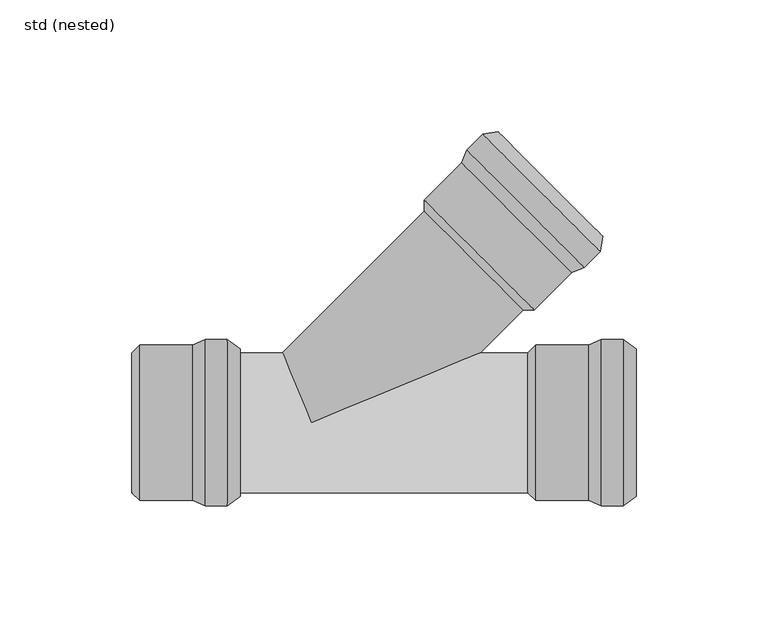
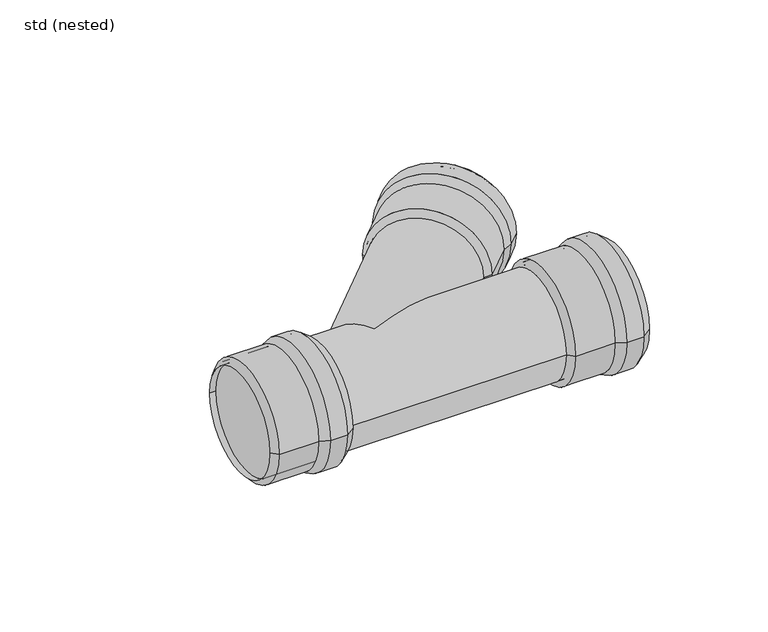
"""IFC4 building model written with IfcOpenShell, lengths in millimetres: pipe fitting geometry, ZZZ_do not use_PIF_ST_UN_GM-X single branch_ACO : std (nested)."""

from ifc_helpers import new_model, si_unit, frame, origin, place, context, project, spatial, polyline, circle_curve, ellipse_curve, source, transform, mapped, element, save
from ifc_brep_helpers import plane_surface, cylinder_surface, revolved_surface, advanced_brep


def std_nested_80a40978(model_context):
    return source(origin(), model_context, "Body", "AdvancedBrep", [
        advanced_brep(
        [(-40.2, 31.5, 0.0), (-40.2, -31.5, 0.0), (-31.8, -31.5, 0.0), (-31.8, 31.5, 0.0), (-45.0, 29.5, 0.0), (-45.0, -29.5, 0.0), (-27.0, -28.0, 0.0), (-27.0, 28.0, 0.0), (-65.0, 29.5, 0.0), (-65.0, -29.5, 0.0), (-68.0, 26.5, 0.0), (-68.0, -26.5, 0.0), (-65.0, 26.5, 0.0), (-65.0, -26.5, 0.0), (-44.7, 28.0, 0.0), (-44.7, -28.0, 0.0), (-65.0, -28.0, 0.0), (-65.0, 28.0, 0.0), (-39.9, 30.0, 0.0), (-39.9, -30.0, 0.0), (-32.2888023, 30.0, 0.0), (-32.2888023, -30.0, 0.0), (-27.8837582, 26.7879887, 0.0), (-27.8837582, -26.7879887, 0.0)],
        [
            (0, 1, circle_curve(frame((-40.2, 0.0, 0.0), z_axis=(1.0, 0.0, 0.0), x_axis=(0.0, -1.0, 0.0)), 31.5)),
            (1, 2),
            (2, 3, circle_curve(frame((-31.8, 0.0, 0.0), z_axis=(-1.0, 0.0, 0.0), x_axis=(0.0, -1.0, 0.0)), 31.5)),
            (3, 0),
            (1, 0, circle_curve(frame((-40.2, 0.0, 0.0), z_axis=(1.0, 0.0, 0.0), x_axis=(0.0, -1.0, 0.0)), 31.5)),
            (3, 2, circle_curve(frame((-31.8, 0.0, 0.0), z_axis=(-1.0, 0.0, 0.0), x_axis=(0.0, -1.0, 0.0)), 31.5)),
            (4, 5, circle_curve(frame((-45.0, 0.0, 0.0), z_axis=(1.0, 0.0, 0.0), x_axis=(0.0, -1.0, 0.0)), 29.5)),
            (5, 1),
            (0, 4),
            (5, 4, circle_curve(frame((-45.0, 0.0, 0.0), z_axis=(1.0, 0.0, 0.0), x_axis=(0.0, -1.0, 0.0)), 29.5)),
            (2, 6),
            (6, 7, circle_curve(frame((-27.0, 0.0, 0.0), z_axis=(-1.0, 0.0, 0.0), x_axis=(0.0, -1.0, 0.0)), 28.0)),
            (7, 3),
            (7, 6, circle_curve(frame((-27.0, 0.0, 0.0), z_axis=(-1.0, 0.0, 0.0), x_axis=(0.0, -1.0, 0.0)), 28.0)),
            (8, 9, circle_curve(frame((-65.0, 0.0, 0.0), z_axis=(1.0, 0.0, 0.0), x_axis=(0.0, -1.0, 0.0)), 29.5)),
            (9, 5),
            (4, 8),
            (9, 8, circle_curve(frame((-65.0, 0.0, 0.0), z_axis=(1.0, 0.0, 0.0), x_axis=(0.0, -1.0, 0.0)), 29.5)),
            (10, 11, circle_curve(frame((-68.0, 0.0, 0.0), z_axis=(1.0, 0.0, 0.0), x_axis=(0.0, -1.0, 0.0)), 26.5)),
            (11, 9),
            (8, 10),
            (11, 10, circle_curve(frame((-68.0, 0.0, 0.0), z_axis=(1.0, 0.0, 0.0), x_axis=(0.0, -1.0, 0.0)), 26.5)),
            (12, 13, circle_curve(frame((-65.0, 0.0, 0.0), z_axis=(1.0, 0.0, 0.0), x_axis=(0.0, -1.0, 0.0)), 26.5)),
            (13, 11),
            (10, 12),
            (13, 12, circle_curve(frame((-65.0, 0.0, 0.0), z_axis=(1.0, 0.0, 0.0), x_axis=(0.0, -1.0, 0.0)), 26.5)),
            (14, 15, circle_curve(frame((-44.7, 0.0, 0.0), z_axis=(1.0, 0.0, 0.0), x_axis=(0.0, -1.0, 0.0)), 28.0)),
            (15, 16),
            (16, 17, circle_curve(frame((-65.0, 0.0, 0.0), z_axis=(-1.0, 0.0, 0.0), x_axis=(0.0, -1.0, 0.0)), 28.0)),
            (17, 14),
            (15, 14, circle_curve(frame((-44.7, 0.0, 0.0), z_axis=(1.0, 0.0, 0.0), x_axis=(0.0, -1.0, 0.0)), 28.0)),
            (17, 16, circle_curve(frame((-65.0, 0.0, 0.0), z_axis=(-1.0, 0.0, 0.0), x_axis=(0.0, -1.0, 0.0)), 28.0)),
            (18, 19, circle_curve(frame((-39.9, 0.0, 0.0), z_axis=(1.0, 0.0, 0.0), x_axis=(0.0, -1.0, 0.0)), 30.0)),
            (19, 15),
            (14, 18),
            (19, 18, circle_curve(frame((-39.9, 0.0, 0.0), z_axis=(1.0, 0.0, 0.0), x_axis=(0.0, -1.0, 0.0)), 30.0)),
            (20, 21, circle_curve(frame((-32.2888023, 0.0, 0.0), z_axis=(1.0, 0.0, 0.0), x_axis=(0.0, -1.0, 0.0)), 30.0)),
            (21, 19),
            (18, 20),
            (21, 20, circle_curve(frame((-32.2888023, 0.0, 0.0), z_axis=(1.0, 0.0, 0.0), x_axis=(0.0, -1.0, 0.0)), 30.0)),
            (22, 23, circle_curve(frame((-27.8837582, 0.0, 0.0), z_axis=(1.0, 0.0, 0.0), x_axis=(0.0, -1.0, 0.0)), 26.7879887)),
            (23, 21),
            (20, 22),
            (23, 22, circle_curve(frame((-27.8837582, 0.0, 0.0), z_axis=(1.0, 0.0, 0.0), x_axis=(0.0, -1.0, 0.0)), 26.7879887)),
            (6, 23),
            (22, 7),
            (16, 13),
            (12, 17),
        ],
        [
            cylinder_surface(frame((-30.3555883, 0.0, 0.0), z_axis=(-1.0, 0.0, 0.0), x_axis=(0.0, -1.0, 0.0)), 31.5),
            revolved_surface(polyline([(-40.2, -31.5, 0.0), (-45.0, -29.5, 0.0)]), (-30.3555883, 0.0, 0.0), (-1.0, 0.0, 0.0)),
            revolved_surface(polyline([(-27.0, -28.0, 0.0), (-31.8, -31.5, 0.0)]), (-30.3555883, 0.0, 0.0), (-1.0, 0.0, 0.0)),
            cylinder_surface(frame((-30.3555883, 0.0, 0.0), z_axis=(-1.0, 0.0, 0.0), x_axis=(0.0, -1.0, 0.0)), 29.5),
            revolved_surface(polyline([(-65.0, -29.5, 0.0), (-68.0, -26.5, 0.0)]), (-30.3555883, 0.0, 0.0), (-1.0, 0.0, 0.0)),
            revolved_surface(polyline([(-68.0, -26.5, 0.0), (-65.0, -26.5, 0.0)]), (-30.3555883, 0.0, 0.0), (-1.0, 0.0, 0.0)),
            revolved_surface(polyline([(-65.0, -28.0, 0.0), (-44.7, -28.0, 0.0)]), (-30.3555883, 0.0, 0.0), (-1.0, 0.0, 0.0)),
            revolved_surface(polyline([(-44.7, -28.0, 0.0), (-39.9, -30.0, 0.0)]), (-30.3555883, 0.0, 0.0), (-1.0, 0.0, 0.0)),
            revolved_surface(polyline([(-39.9, -30.0, 0.0), (-32.2888023, -30.0, 0.0)]), (-30.3555883, 0.0, 0.0), (-1.0, 0.0, 0.0)),
            revolved_surface(polyline([(-32.2888023, -30.0, 0.0), (-27.8837582, -26.7879887, 0.0)]), (-30.3555883, 0.0, 0.0), (-1.0, 0.0, 0.0)),
            revolved_surface(polyline([(-27.8837582, -26.7879887, 0.0), (-27.0, -28.0, 0.0)]), (-30.3555883, 0.0, 0.0), (-1.0, 0.0, 0.0)),
            plane_surface(frame((-65.0, 0.0, 0.0), z_axis=(1.0, 0.0, 0.0), x_axis=(0.0, -1.0, 0.0))),
        ],
        [
            (0, [[1, 2, 3, 4]]),
            (0, [[5, -4, 6, -2]]),
            (1, [[7, 8, -1, 9]]),
            (1, [[10, -9, -5, -8]]),
            (2, [[-3, 11, 12, 13]]),
            (2, [[-6, -13, 14, -11]]),
            (3, [[15, 16, -7, 17]]),
            (3, [[18, -17, -10, -16]]),
            (4, [[19, 20, -15, 21]]),
            (4, [[22, -21, -18, -20]]),
            (5, [[23, 24, -19, 25]]),
            (5, [[26, -25, -22, -24]]),
            (6, [[27, 28, 29, 30]]),
            (6, [[31, -30, 32, -28]]),
            (7, [[33, 34, -27, 35]]),
            (7, [[36, -35, -31, -34]]),
            (8, [[37, 38, -33, 39]]),
            (8, [[40, -39, -36, -38]]),
            (9, [[41, 42, -37, 43]]),
            (9, [[44, -43, -40, -42]]),
            (10, [[-12, 45, -41, 46]]),
            (10, [[-14, -46, -44, -45]]),
            (11, [[-29, 47, -23, 48]]),
            (11, [[-32, -48, -26, -47]]),
        ],
    ),
        advanced_brep(
        [(109.8, -31.5, 0.0), (109.8, 31.5, 0.0), (118.2, 31.5, 0.0), (118.2, -31.5, 0.0), (105.0, -29.5, 0.0), (105.0, 29.5, 0.0), (123.0, 28.0, 0.0), (123.0, -28.0, 0.0), (85.0, -29.5, 0.0), (85.0, 29.5, 0.0), (82.0, -26.5, 0.0), (82.0, 26.5, 0.0), (85.0, -26.5, 0.0), (85.0, 26.5, 0.0), (105.3, -28.0, 0.0), (105.3, 28.0, 0.0), (85.0, 28.0, 0.0), (85.0, -28.0, 0.0), (110.1, -30.0, 0.0), (110.1, 30.0, 0.0), (117.7111977, -30.0, 0.0), (117.7111977, 30.0, 0.0), (122.1162418, -26.7879887, 0.0), (122.1162418, 26.7879887, 0.0)],
        [
            (0, 1, circle_curve(frame((109.8, 0.0, 0.0), z_axis=(1.0, 0.0, 0.0), x_axis=(0.0, 1.0, 0.0)), 31.5)),
            (1, 2),
            (2, 3, circle_curve(frame((118.2, 0.0, 0.0), z_axis=(-1.0, 0.0, 0.0), x_axis=(0.0, 1.0, 0.0)), 31.5)),
            (3, 0),
            (1, 0, circle_curve(frame((109.8, 0.0, 0.0), z_axis=(1.0, 0.0, 0.0), x_axis=(0.0, 1.0, 0.0)), 31.5)),
            (3, 2, circle_curve(frame((118.2, 0.0, 0.0), z_axis=(-1.0, 0.0, 0.0), x_axis=(0.0, 1.0, 0.0)), 31.5)),
            (4, 5, circle_curve(frame((105.0, 0.0, 0.0), z_axis=(1.0, 0.0, 0.0), x_axis=(0.0, 1.0, 0.0)), 29.5)),
            (5, 1),
            (0, 4),
            (5, 4, circle_curve(frame((105.0, 0.0, 0.0), z_axis=(1.0, 0.0, 0.0), x_axis=(0.0, 1.0, 0.0)), 29.5)),
            (2, 6),
            (6, 7, circle_curve(frame((123.0, 0.0, 0.0), z_axis=(-1.0, 0.0, 0.0), x_axis=(0.0, 1.0, 0.0)), 28.0)),
            (7, 3),
            (7, 6, circle_curve(frame((123.0, 0.0, 0.0), z_axis=(-1.0, 0.0, 0.0), x_axis=(0.0, 1.0, 0.0)), 28.0)),
            (8, 9, circle_curve(frame((85.0, 0.0, 0.0), z_axis=(1.0, 0.0, 0.0), x_axis=(0.0, 1.0, 0.0)), 29.5)),
            (9, 5),
            (4, 8),
            (9, 8, circle_curve(frame((85.0, 0.0, 0.0), z_axis=(1.0, 0.0, 0.0), x_axis=(0.0, 1.0, 0.0)), 29.5)),
            (10, 11, circle_curve(frame((82.0, 0.0, 0.0), z_axis=(1.0, 0.0, 0.0), x_axis=(0.0, 1.0, 0.0)), 26.5)),
            (11, 9),
            (8, 10),
            (11, 10, circle_curve(frame((82.0, 0.0, 0.0), z_axis=(1.0, 0.0, 0.0), x_axis=(0.0, 1.0, 0.0)), 26.5)),
            (12, 13, circle_curve(frame((85.0, 0.0, 0.0), z_axis=(1.0, 0.0, 0.0), x_axis=(0.0, 1.0, 0.0)), 26.5)),
            (13, 11),
            (10, 12),
            (13, 12, circle_curve(frame((85.0, 0.0, 0.0), z_axis=(1.0, 0.0, 0.0), x_axis=(0.0, 1.0, 0.0)), 26.5)),
            (14, 15, circle_curve(frame((105.3, 0.0, 0.0), z_axis=(1.0, 0.0, 0.0), x_axis=(0.0, 1.0, 0.0)), 28.0)),
            (15, 16),
            (16, 17, circle_curve(frame((85.0, 0.0, 0.0), z_axis=(-1.0, 0.0, 0.0), x_axis=(0.0, 1.0, 0.0)), 28.0)),
            (17, 14),
            (15, 14, circle_curve(frame((105.3, 0.0, 0.0), z_axis=(1.0, 0.0, 0.0), x_axis=(0.0, 1.0, 0.0)), 28.0)),
            (17, 16, circle_curve(frame((85.0, 0.0, 0.0), z_axis=(-1.0, 0.0, 0.0), x_axis=(0.0, 1.0, 0.0)), 28.0)),
            (18, 19, circle_curve(frame((110.1, 0.0, 0.0), z_axis=(1.0, 0.0, 0.0), x_axis=(0.0, 1.0, 0.0)), 30.0)),
            (19, 15),
            (14, 18),
            (19, 18, circle_curve(frame((110.1, 0.0, 0.0), z_axis=(1.0, 0.0, 0.0), x_axis=(0.0, 1.0, 0.0)), 30.0)),
            (20, 21, circle_curve(frame((117.7111977, 0.0, 0.0), z_axis=(1.0, 0.0, 0.0), x_axis=(0.0, 1.0, 0.0)), 30.0)),
            (21, 19),
            (18, 20),
            (21, 20, circle_curve(frame((117.7111977, 0.0, 0.0), z_axis=(1.0, 0.0, 0.0), x_axis=(0.0, 1.0, 0.0)), 30.0)),
            (22, 23, circle_curve(frame((122.1162418, 0.0, 0.0), z_axis=(1.0, 0.0, 0.0), x_axis=(0.0, 1.0, 0.0)), 26.7879887)),
            (23, 21),
            (20, 22),
            (23, 22, circle_curve(frame((122.1162418, 0.0, 0.0), z_axis=(1.0, 0.0, 0.0), x_axis=(0.0, 1.0, 0.0)), 26.7879887)),
            (6, 23),
            (22, 7),
            (16, 13),
            (12, 17),
        ],
        [
            cylinder_surface(frame((119.6444117, 0.0, 0.0), z_axis=(-1.0, 0.0, 0.0), x_axis=(0.0, 1.0, 0.0)), 31.5),
            revolved_surface(polyline([(109.8, 31.5, 0.0), (105.0, 29.5, 0.0)]), (119.6444117, 0.0, 0.0), (-1.0, 0.0, 0.0)),
            revolved_surface(polyline([(123.0, 28.0, 0.0), (118.2, 31.5, 0.0)]), (119.6444117, 0.0, 0.0), (-1.0, 0.0, 0.0)),
            cylinder_surface(frame((119.6444117, 0.0, 0.0), z_axis=(-1.0, 0.0, 0.0), x_axis=(0.0, 1.0, 0.0)), 29.5),
            revolved_surface(polyline([(85.0, 29.5, 0.0), (82.0, 26.5, 0.0)]), (119.6444117, 0.0, 0.0), (-1.0, 0.0, 0.0)),
            revolved_surface(polyline([(82.0, 26.5, 0.0), (85.0, 26.5, 0.0)]), (119.6444117, 0.0, 0.0), (-1.0, 0.0, 0.0)),
            revolved_surface(polyline([(85.0, 28.0, 0.0), (105.3, 28.0, 0.0)]), (119.6444117, 0.0, 0.0), (-1.0, 0.0, 0.0)),
            revolved_surface(polyline([(105.3, 28.0, 0.0), (110.1, 30.0, 0.0)]), (119.6444117, 0.0, 0.0), (-1.0, 0.0, 0.0)),
            revolved_surface(polyline([(110.1, 30.0, 0.0), (117.7111977, 30.0, 0.0)]), (119.6444117, 0.0, 0.0), (-1.0, 0.0, 0.0)),
            revolved_surface(polyline([(117.7111977, 30.0, 0.0), (122.1162418, 26.7879887, 0.0)]), (119.6444117, 0.0, 0.0), (-1.0, 0.0, 0.0)),
            revolved_surface(polyline([(122.1162418, 26.7879887, 0.0), (123.0, 28.0, 0.0)]), (119.6444117, 0.0, 0.0), (-1.0, 0.0, 0.0)),
            plane_surface(frame((85.0, 0.0, 0.0), z_axis=(1.0, 0.0, 0.0), x_axis=(0.0, 1.0, 0.0))),
        ],
        [
            (0, [[1, 2, 3, 4]]),
            (0, [[5, -4, 6, -2]]),
            (1, [[7, 8, -1, 9]]),
            (1, [[10, -9, -5, -8]]),
            (2, [[-3, 11, 12, 13]]),
            (2, [[-6, -13, 14, -11]]),
            (3, [[15, 16, -7, 17]]),
            (3, [[18, -17, -10, -16]]),
            (4, [[19, 20, -15, 21]]),
            (4, [[22, -21, -18, -20]]),
            (5, [[23, 24, -19, 25]]),
            (5, [[26, -25, -22, -24]]),
            (6, [[27, 28, 29, 30]]),
            (6, [[31, -30, 32, -28]]),
            (7, [[33, 34, -27, 35]]),
            (7, [[36, -35, -31, -34]]),
            (8, [[37, 38, -33, 39]]),
            (8, [[40, -39, -36, -38]]),
            (9, [[41, 42, -37, 43]]),
            (9, [[44, -43, -40, -42]]),
            (10, [[-12, 45, -41, 46]]),
            (10, [[-14, -46, -44, -45]]),
            (11, [[-29, 47, -23, 48]]),
            (11, [[-32, -48, -26, -47]]),
        ],
    ),
        advanced_brep(
        [(103.4552102, 58.892355, 0.0), (58.9116342, 103.4442331, 0.0), (64.8518846, 109.3833765, 0.0), (109.3954606, 64.8314985, 0.0), (98.6466996, 56.9129041, 0.0), (56.9312872, 98.6360915, 0.0), (70.7209565, 110.3020685, 0.0), (110.3152463, 70.7003991, 0.0), (84.5032463, 42.7720863, 0.0), (42.7878338, 84.4952737, 0.0), (80.2606056, 42.7724816, 0.0), (42.7874385, 80.252633, 0.0), (82.3821236, 44.8936043, 0.0), (44.9089565, 82.3737557, 0.0), (97.7982901, 58.1857754, 0.0), (58.2040003, 97.7874447, 0.0), (43.8483952, 83.4345147, 0.0), (83.4426849, 43.8328453, 0.0), (102.6068007, 60.1652263, 0.0), (60.1843473, 102.5955863, 0.0), (107.9892317, 65.5466543, 0.0), (65.5667783, 107.9770143, 0.0), (108.8333351, 70.9326471, 0.0), (70.9529284, 108.820114, 0.0)],
        [
            (0, 1, circle_curve(frame((81.1834222, 81.168294, 0.0), z_axis=(0.7071726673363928, 0.7070408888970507, 0.0), x_axis=(-0.7070408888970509, 0.707172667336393, 0.0)), 31.5)),
            (1, 2),
            (2, 3, circle_curve(frame((87.1236726, 87.1074375, 0.0), z_axis=(-0.7071726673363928, -0.7070408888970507, 0.0), x_axis=(-0.7070408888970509, 0.707172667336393, 0.0)), 31.5)),
            (3, 0),
            (1, 0, circle_curve(frame((81.1834222, 81.168294, 0.0), z_axis=(0.7071726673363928, 0.7070408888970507, 0.0), x_axis=(-0.7070408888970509, 0.707172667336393, 0.0)), 31.5)),
            (3, 2, circle_curve(frame((87.1236726, 87.1074375, 0.0), z_axis=(-0.7071726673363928, -0.7070408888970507, 0.0), x_axis=(-0.7070408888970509, 0.707172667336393, 0.0)), 31.5)),
            (4, 5, circle_curve(frame((77.7889934, 77.7744978, 0.0), z_axis=(0.7071726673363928, 0.7070408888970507, 0.0), x_axis=(-0.7070408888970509, 0.707172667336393, 0.0)), 29.5)),
            (5, 1),
            (0, 4),
            (5, 4, circle_curve(frame((77.7889934, 77.7744978, 0.0), z_axis=(0.7071726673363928, 0.7070408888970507, 0.0), x_axis=(-0.7070408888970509, 0.707172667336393, 0.0)), 29.5)),
            (2, 6),
            (6, 7, circle_curve(frame((90.5181014, 90.5012338, 0.0), z_axis=(-0.7071726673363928, -0.7070408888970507, 0.0), x_axis=(-0.7070408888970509, 0.707172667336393, 0.0)), 28.0)),
            (7, 3),
            (7, 6, circle_curve(frame((90.5181014, 90.5012338, 0.0), z_axis=(-0.7071726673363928, -0.7070408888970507, 0.0), x_axis=(-0.7070408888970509, 0.707172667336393, 0.0)), 28.0)),
            (8, 9, circle_curve(frame((63.6455401, 63.63368, 0.0), z_axis=(0.7071726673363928, 0.7070408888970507, 0.0), x_axis=(-0.7070408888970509, 0.707172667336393, 0.0)), 29.5)),
            (9, 5),
            (4, 8),
            (9, 8, circle_curve(frame((63.6455401, 63.63368, 0.0), z_axis=(0.7071726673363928, 0.7070408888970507, 0.0), x_axis=(-0.7070408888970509, 0.707172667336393, 0.0)), 29.5)),
            (10, 11, circle_curve(frame((61.5240221, 61.5125573, 0.0), z_axis=(0.7071726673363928, 0.7070408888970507, 0.0), x_axis=(-0.7070408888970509, 0.707172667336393, 0.0)), 26.5)),
            (11, 9),
            (8, 10),
            (11, 10, circle_curve(frame((61.5240221, 61.5125573, 0.0), z_axis=(0.7071726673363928, 0.7070408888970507, 0.0), x_axis=(-0.7070408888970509, 0.707172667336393, 0.0)), 26.5)),
            (12, 13, circle_curve(frame((63.6455401, 63.63368, 0.0), z_axis=(0.7071726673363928, 0.7070408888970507, 0.0), x_axis=(-0.7070408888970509, 0.707172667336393, 0.0)), 26.5)),
            (13, 11),
            (10, 12),
            (13, 12, circle_curve(frame((63.6455401, 63.63368, 0.0), z_axis=(0.7071726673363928, 0.7070408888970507, 0.0), x_axis=(-0.7070408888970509, 0.707172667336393, 0.0)), 26.5)),
            (14, 15, circle_curve(frame((78.0011452, 77.98661, 0.0), z_axis=(0.7071726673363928, 0.7070408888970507, 0.0), x_axis=(-0.7070408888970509, 0.707172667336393, 0.0)), 28.0)),
            (15, 16),
            (16, 17, circle_curve(frame((63.6455401, 63.63368, 0.0), z_axis=(-0.7071726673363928, -0.7070408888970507, 0.0), x_axis=(-0.7070408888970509, 0.707172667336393, 0.0)), 28.0)),
            (17, 14),
            (15, 14, circle_curve(frame((78.0011452, 77.98661, 0.0), z_axis=(0.7071726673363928, 0.7070408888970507, 0.0), x_axis=(-0.7070408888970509, 0.707172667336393, 0.0)), 28.0)),
            (17, 16, circle_curve(frame((63.6455401, 63.63368, 0.0), z_axis=(-0.7071726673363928, -0.7070408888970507, 0.0), x_axis=(-0.7070408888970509, 0.707172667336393, 0.0)), 28.0)),
            (18, 19, circle_curve(frame((81.395574, 81.3804063, 0.0), z_axis=(0.7071726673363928, 0.7070408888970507, 0.0), x_axis=(-0.7070408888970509, 0.707172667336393, 0.0)), 30.0)),
            (19, 15),
            (14, 18),
            (19, 18, circle_curve(frame((81.395574, 81.3804063, 0.0), z_axis=(0.7071726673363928, 0.7070408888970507, 0.0), x_axis=(-0.7070408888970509, 0.707172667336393, 0.0)), 30.0)),
            (20, 21, circle_curve(frame((86.778005, 86.7618343, 0.0), z_axis=(0.7071726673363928, 0.7070408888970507, 0.0), x_axis=(-0.7070408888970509, 0.707172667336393, 0.0)), 30.0)),
            (21, 19),
            (18, 20),
            (21, 20, circle_curve(frame((86.778005, 86.7618343, 0.0), z_axis=(0.7071726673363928, 0.7070408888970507, 0.0), x_axis=(-0.7070408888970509, 0.707172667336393, 0.0)), 30.0)),
            (22, 23, circle_curve(frame((89.8931317, 89.8763806, 0.0), z_axis=(0.7071726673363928, 0.7070408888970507, 0.0), x_axis=(-0.7070408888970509, 0.707172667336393, 0.0)), 26.7879887)),
            (23, 21),
            (20, 22),
            (23, 22, circle_curve(frame((89.8931317, 89.8763806, 0.0), z_axis=(0.7071726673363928, 0.7070408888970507, 0.0), x_axis=(-0.7070408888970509, 0.707172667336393, 0.0)), 26.7879887)),
            (6, 23),
            (22, 7),
            (16, 13),
            (12, 17),
        ],
        [
            cylinder_surface(frame((88.1451211, 88.1286956, 0.0), z_axis=(-0.7071726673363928, -0.7070408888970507, 0.0), x_axis=(-0.7070408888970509, 0.707172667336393, 0.0)), 31.5),
            revolved_surface(polyline([(58.9116342, 103.4442331, 0.0), (56.9312872, 98.6360915, 0.0)]), (88.1451211, 88.1286956, 0.0), (-0.7071726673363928, -0.7070408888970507, 0.0)),
            revolved_surface(polyline([(70.7209565, 110.3020685, 0.0), (64.8518846, 109.3833765, 0.0)]), (88.1451211, 88.1286956, 0.0), (-0.7071726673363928, -0.7070408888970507, 0.0)),
            cylinder_surface(frame((88.1451211, 88.1286956, 0.0), z_axis=(-0.7071726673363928, -0.7070408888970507, 0.0), x_axis=(-0.7070408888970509, 0.707172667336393, 0.0)), 29.5),
            revolved_surface(polyline([(42.7878338, 84.4952737, 0.0), (42.7874385, 80.252633, 0.0)]), (88.1451211, 88.1286956, 0.0), (-0.7071726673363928, -0.7070408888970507, 0.0)),
            revolved_surface(polyline([(42.78743849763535, 80.25263295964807, 0.0), (44.90895655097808, 82.37375567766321, 0.0)]), (88.1451211, 88.1286956, 0.0), (-0.7071726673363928, -0.7070408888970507, 0.0)),
            revolved_surface(polyline([(43.848395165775, 83.43451462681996, 0.0), (58.20400036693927, 97.78744472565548, 0.0)]), (88.1451211, 88.1286956, 0.0), (-0.7071726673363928, -0.7070408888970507, 0.0)),
            revolved_surface(polyline([(58.2040003, 97.7874447, 0.0), (60.1843473, 102.5955863, 0.0)]), (88.1451211, 88.1286956, 0.0), (-0.7071726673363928, -0.7070408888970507, 0.0)),
            revolved_surface(polyline([(60.18434733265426, 102.59558626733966, 0.0), (65.56677838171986, 107.97701432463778, 0.0)]), (88.1451211, 88.1286956, 0.0), (-0.7071726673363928, -0.7070408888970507, 0.0)),
            revolved_surface(polyline([(65.5667783, 107.9770143, 0.0), (70.9529284, 108.820114, 0.0)]), (88.1451211, 88.1286956, 0.0), (-0.7071726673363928, -0.7070408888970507, 0.0)),
            revolved_surface(polyline([(70.9529284, 108.820114, 0.0), (70.7209565, 110.3020685, 0.0)]), (88.1451211, 88.1286956, 0.0), (-0.7071726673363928, -0.7070408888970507, 0.0)),
            plane_surface(frame((63.6455401, 63.63368, 0.0), z_axis=(0.7071726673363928, 0.7070408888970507, 0.0), x_axis=(-0.7070408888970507, 0.7071726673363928, 0.0))),
        ],
        [
            (0, [[1, 2, 3, 4]]),
            (0, [[5, -4, 6, -2]]),
            (1, [[7, 8, -1, 9]]),
            (1, [[10, -9, -5, -8]]),
            (2, [[-3, 11, 12, 13]]),
            (2, [[-6, -13, 14, -11]]),
            (3, [[15, 16, -7, 17]]),
            (3, [[18, -17, -10, -16]]),
            (4, [[19, 20, -15, 21]]),
            (4, [[22, -21, -18, -20]]),
            (5, [[23, 24, -19, 25]]),
            (5, [[26, -25, -22, -24]]),
            (6, [[27, 28, 29, 30]]),
            (6, [[31, -30, 32, -28]]),
            (7, [[33, 34, -27, 35]]),
            (7, [[36, -35, -31, -34]]),
            (8, [[37, 38, -33, 39]]),
            (8, [[40, -39, -36, -38]]),
            (9, [[41, 42, -37, 43]]),
            (9, [[44, -43, -40, -42]]),
            (10, [[-12, 45, -41, 46]]),
            (10, [[-14, -46, -44, -45]]),
            (11, [[-29, 47, -23, 48]]),
            (11, [[-32, -48, -26, -47]]),
        ],
    ),
        advanced_brep(
        [(85.0, -26.5, 0.0), (85.0, 26.5, 0.0), (-65.0, -26.5, 0.0), (-65.0, 26.5, 0.0), (-10.9752129, 26.5, 0.0), (0.0, 0.0, -26.5), (63.9850911, 26.5, 0.0), (0.0, 0.0, 26.5), (82.3821236, 44.8936043, 0.0), (44.9089565, 82.3737557, 0.0)],
        [
            (0, 1, circle_curve(frame((85.0, 0.0, 0.0), z_axis=(1.0, 0.0, 0.0), x_axis=(0.0, 1.0, 0.0)), 26.5)),
            (1, 0, circle_curve(frame((85.0, 0.0, 0.0), z_axis=(1.0, 0.0, 0.0), x_axis=(0.0, 1.0, 0.0)), 26.5)),
            (2, 3, circle_curve(frame((-65.0, 0.0, 0.0), z_axis=(-1.0, 0.0, 0.0), x_axis=(0.0, 1.0, 0.0)), 26.5)),
            (3, 2, circle_curve(frame((-65.0, 0.0, 0.0), z_axis=(-1.0, 0.0, 0.0), x_axis=(0.0, 1.0, 0.0)), 26.5)),
            (0, 2),
            (3, 4),
            (4, 5, ellipse_curve(frame((0.0, 0.0, 0.0), z_axis=(-0.9238973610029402, -0.382640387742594, 0.0), x_axis=(0.38264038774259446, -0.9238973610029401, 0.0)), 28.6828398, 26.5)),
            (5, 6, ellipse_curve(frame((0.0, 0.0, 0.0), z_axis=(0.38264038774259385, -0.9238973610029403, 0.0), x_axis=(0.9238973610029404, 0.3826403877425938, 0.0)), 69.2556271, 26.5)),
            (6, 1),
            (6, 7, ellipse_curve(frame((0.0, 0.0, 0.0), z_axis=(0.38264038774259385, -0.9238973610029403, 0.0), x_axis=(0.9238973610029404, 0.3826403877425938, 0.0)), 69.2556271, 26.5)),
            (7, 4, ellipse_curve(frame((0.0, 0.0, 0.0), z_axis=(-0.9238973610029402, -0.382640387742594, 0.0), x_axis=(0.38264038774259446, -0.9238973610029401, 0.0)), 28.6828398, 26.5)),
            (8, 9, circle_curve(frame((63.6455401, 63.63368, 0.0), z_axis=(0.7071726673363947, 0.7070408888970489, 0.0), x_axis=(-0.7070408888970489, 0.7071726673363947, 0.0)), 26.5)),
            (9, 8, circle_curve(frame((63.6455401, 63.63368, 0.0), z_axis=(0.7071726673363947, 0.7070408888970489, 0.0), x_axis=(-0.7070408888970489, 0.7071726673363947, 0.0)), 26.5)),
            (9, 4),
            (6, 8),
        ],
        [
            plane_surface(frame((85.0, 26.5, 0.0), z_axis=(1.0, 0.0, 0.0), x_axis=(0.0, 0.0, 1.0))),
            plane_surface(frame((-65.0, 26.5, 0.0), z_axis=(-1.0, 0.0, 0.0), x_axis=(0.0, 0.0, -1.0))),
            cylinder_surface(frame((-65.0, 0.0, 0.0), z_axis=(1.0, 0.0, 0.0), x_axis=(0.0, 1.0, 0.0)), 26.5),
            plane_surface(frame((63.6455401, 63.63368, 0.0), z_axis=(0.7071726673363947, 0.7070408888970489, 0.0), x_axis=(0.0, 0.0, 1.0))),
            cylinder_surface(frame((0.0, 0.0, 0.0), z_axis=(-0.7071726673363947, -0.7070408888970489, 0.0), x_axis=(-0.7070408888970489, 0.7071726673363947, 0.0)), 26.5),
        ],
        [
            (0, [[1, 2]]),
            (1, [[3, 4]]),
            (2, [[-1, 5, -4, 6, 7, 8, 9]]),
            (2, [[-2, -9, 10, 11, -6, -3, -5]]),
            (3, [[12, 13]]),
            (4, [[-13, 14, -11, -10, 15]]),
            (4, [[-12, -15, -8, -7, -14]]),
        ],
    ),
    ])


if __name__ == "__main__":
    model = new_model("IFC4")
    model_context = context("Model", 3, world=origin())
    ifc_project = project(units=[si_unit("LENGTHUNIT", "METRE", prefix="MILLI")], contexts=[model_context])
    site = spatial("IfcSite", under=ifc_project)
    building = spatial("IfcBuilding", under=site)
    placement = place(None, origin())
    std_nested_shape = std_nested_80a40978(model_context)
    element("IfcPipeFitting", 1, ObjectType="ZZZ_do not use_PIF_ST_UN_GM-X single branch_ACO : std (nested)", at=placement, inside=building, context=model_context, shape_type="MappedRepresentation", body=[
        mapped(std_nested_shape, transform((0.0, 0.0, 0.0), x_axis=(1.0, 0.0, 0.0), y_axis=(0.0, 1.0, 0.0), z_axis=(0.0, 0.0, 1.0))),
    ])
    save(model, "model.ifc")
